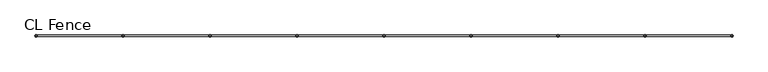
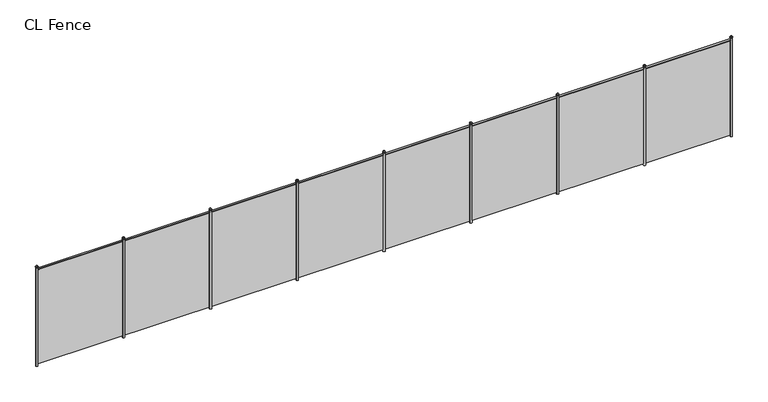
"""IFC4 building model written with IfcOpenShell, lengths in millimetres: geographic element geometry, Alambrado : CL Fence."""

from ifc_helpers import new_model, si_unit, point, frame, frame_2d, origin, place, context, project, spatial, polyline, circle_curve, ellipse_curve, trimmed, segment, composite_curve, outline, extrude, source, transform, mapped, element, save
from ifc_brep_helpers import plane_surface, cylinder_surface, revolved_surface, advanced_brep


def cl_fence_86baf1ea(model_context):
    return source(origin(), model_context, "Body", "SolidModel", [
        advanced_brep(
        [(17648.026156, 0.0, 3055.5625), (17709.0125527, 0.0, 3055.5625), (17710.2693543, 0.0, 3055.5625), (17646.7693543, 0.0, 3055.5625), (17678.5193543, 0.0, 3086.0556984), (17646.7693543, 0.0, 3033.3375), (17710.2693543, 0.0, 3033.3375), (17678.5193543, 0.0, 3033.3375), (17646.7693543, 0.0, 3050.8), (17710.2693543, 0.0, 3050.8)],
        [
            (0, 1, circle_curve(frame((17678.5193543, 0.0, 3055.5625), z_axis=(0.0, 0.0, -1.0), x_axis=(1.0, 0.0, 0.0)), 30.4931984)),
            (1, 2),
            (2, 3, circle_curve(frame((17678.5193543, 0.0, 3055.5625), z_axis=(0.0, 0.0, 1.0), x_axis=(1.0, 0.0, 0.0)), 31.75)),
            (3, 0),
            (1, 0, circle_curve(frame((17678.5193543, 0.0, 3055.5625), z_axis=(0.0, 0.0, -1.0), x_axis=(1.0, 0.0, 0.0)), 30.4931984)),
            (3, 2, circle_curve(frame((17678.5193543, 0.0, 3055.5625), z_axis=(0.0, 0.0, 1.0), x_axis=(1.0, 0.0, 0.0)), 31.75)),
            (4, 1, circle_curve(frame((17671.6636871, 0.0, 3048.7068328), z_axis=(0.0, 1.0, 0.0), x_axis=(1.0, 0.0, 0.0)), 37.9728578)),
            (0, 4, circle_curve(frame((17685.3750215, 0.0, 3048.7068328), z_axis=(0.0, 1.0, 0.0), x_axis=(-1.0, 0.0, 0.0)), 37.9728578)),
            (5, 6, circle_curve(frame((17678.5193543, 0.0, 3033.3375), z_axis=(0.0, 0.0, -1.0), x_axis=(1.0, 0.0, 0.0)), 31.75)),
            (6, 7),
            (7, 5),
            (6, 5, circle_curve(frame((17678.5193543, 0.0, 3033.3375), z_axis=(0.0, 0.0, -1.0), x_axis=(1.0, 0.0, 0.0)), 31.75)),
            (8, 9, circle_curve(frame((17678.5193543, 0.0, 3050.8), z_axis=(0.0, 0.0, -1.0), x_axis=(1.0, 0.0, 0.0)), 31.75)),
            (9, 6),
            (5, 8),
            (9, 8, circle_curve(frame((17678.5193543, 0.0, 3050.8), z_axis=(0.0, 0.0, -1.0), x_axis=(1.0, 0.0, 0.0)), 31.75)),
            (2, 9, circle_curve(frame((17710.2693543, 0.0, 3053.18125), z_axis=(0.0, 1.0, 0.0), x_axis=(1.0, 0.0, 0.0)), 2.38125)),
            (8, 3, circle_curve(frame((17646.7693543, 0.0, 3053.18125), z_axis=(0.0, 1.0, 0.0), x_axis=(-1.0, 0.0, 0.0)), 2.38125)),
        ],
        [
            plane_surface(frame((17678.5193543, 0.0, 3055.5625), z_axis=(0.0, 0.0, 1.0), x_axis=(1.0, 0.0, 0.0))),
            revolved_surface(trimmed(ellipse_curve(frame((17671.6636871, 0.0, 3048.7068328), z_axis=(0.0, -1.0, 0.0), x_axis=(1.0, 0.0, 0.0)), 37.9728578, 37.9728578), [point((17709.0125527, 0.0, 3055.5625))], [point((17678.5193543, 0.0, 3086.0556984))], True, "CARTESIAN"), (17678.5193543, 0.0, 3112.7125), (0.0, 0.0, 1.0)),
            plane_surface(frame((17678.5193543, 0.0, 3033.3375), z_axis=(0.0, 0.0, -1.0), x_axis=(1.0, 0.0, 0.0))),
            cylinder_surface(frame((17678.5193543, 0.0, 3112.7125), z_axis=(0.0, 0.0, 1.0), x_axis=(1.0, 0.0, 0.0)), 31.75),
            revolved_surface(trimmed(ellipse_curve(frame((17710.2693543, 0.0, 3053.18125), z_axis=(0.0, -1.0, 0.0), x_axis=(1.0, 0.0, 0.0)), 2.38125, 2.38125), [point((17710.2693543, 0.0, 3050.8))], [point((17710.2693543, 0.0, 3055.5625))], True, "CARTESIAN"), (17678.5193543, 0.0, 3112.7125), (0.0, 0.0, 1.0)),
        ],
        [
            (0, [[1, 2, 3, 4]]),
            (0, [[5, -4, 6, -2]]),
            (1, [[7, -1, 8]]),
            (1, [[-8, -5, -7]]),
            (2, [[9, 10, 11]]),
            (2, [[12, -11, -10]]),
            (3, [[13, 14, -9, 15]]),
            (3, [[16, -15, -12, -14]]),
            (4, [[-3, 17, -13, 18]]),
            (4, [[-6, -18, -16, -17]]),
        ],
    ),
        advanced_brep(
        [(17678.5193543, 0.0, 3050.8), (17708.6818543, 0.0, 3050.8), (17648.3568543, 0.0, 3050.8), (17648.3568543, 0.0, 0.0), (17708.6818543, 0.0, 0.0), (17678.5193543, 0.0, 0.0)],
        [
            (0, 1),
            (1, 2, circle_curve(frame((17678.5193543, 0.0, 3050.8), z_axis=(0.0, 0.0, 1.0), x_axis=(1.0, 0.0, 0.0)), 30.1625)),
            (2, 0),
            (2, 1, circle_curve(frame((17678.5193543, 0.0, 3050.8), z_axis=(0.0, 0.0, 1.0), x_axis=(1.0, 0.0, 0.0)), 30.1625)),
            (3, 4, circle_curve(frame((17678.5193543, 0.0, 0.0), z_axis=(0.0, 0.0, -1.0), x_axis=(1.0, 0.0, 0.0)), 30.1625)),
            (4, 5),
            (5, 3),
            (4, 3, circle_curve(frame((17678.5193543, 0.0, 0.0), z_axis=(0.0, 0.0, -1.0), x_axis=(1.0, 0.0, 0.0)), 30.1625)),
            (1, 4),
            (3, 2),
        ],
        [
            plane_surface(frame((17678.5193543, 0.0, 3050.8), z_axis=(0.0, 0.0, 1.0), x_axis=(1.0, 0.0, 0.0))),
            plane_surface(frame((17678.5193543, 0.0, 0.0), z_axis=(0.0, 0.0, -1.0), x_axis=(1.0, 0.0, 0.0))),
            cylinder_surface(frame((17678.5193543, 0.0, 3101.6), z_axis=(0.0, 0.0, 1.0), x_axis=(1.0, 0.0, 0.0)), 30.1625),
        ],
        [
            (0, [[1, 2, 3]]),
            (0, [[-3, 4, -1]]),
            (1, [[5, 6, 7]]),
            (1, [[8, -7, -6]]),
            (2, [[-2, 9, -5, 10]]),
            (2, [[-4, -10, -8, -9]]),
        ],
    ),
        advanced_brep(
        [(15122.5233911, 0.0, 3055.5625), (15183.5097878, 0.0, 3055.5625), (15184.7665894, 0.0, 3055.5625), (15121.2665894, 0.0, 3055.5625), (15153.0165894, 0.0, 3086.0556984), (15121.2665894, 0.0, 3033.3375), (15184.7665894, 0.0, 3033.3375), (15153.0165894, 0.0, 3033.3375), (15121.2665894, 0.0, 3050.8), (15184.7665894, 0.0, 3050.8)],
        [
            (0, 1, circle_curve(frame((15153.0165894, 0.0, 3055.5625), z_axis=(0.0, 0.0, -1.0), x_axis=(1.0, 0.0, 0.0)), 30.4931984)),
            (1, 2),
            (2, 3, circle_curve(frame((15153.0165894, 0.0, 3055.5625), z_axis=(0.0, 0.0, 1.0), x_axis=(1.0, 0.0, 0.0)), 31.75)),
            (3, 0),
            (1, 0, circle_curve(frame((15153.0165894, 0.0, 3055.5625), z_axis=(0.0, 0.0, -1.0), x_axis=(1.0, 0.0, 0.0)), 30.4931984)),
            (3, 2, circle_curve(frame((15153.0165894, 0.0, 3055.5625), z_axis=(0.0, 0.0, 1.0), x_axis=(1.0, 0.0, 0.0)), 31.75)),
            (4, 1, circle_curve(frame((15146.1609222, 0.0, 3048.7068328), z_axis=(0.0, 1.0, 0.0), x_axis=(1.0, 0.0, 0.0)), 37.9728578)),
            (0, 4, circle_curve(frame((15159.8722566, 0.0, 3048.7068328), z_axis=(0.0, 1.0, 0.0), x_axis=(-1.0, 0.0, 0.0)), 37.9728578)),
            (5, 6, circle_curve(frame((15153.0165894, 0.0, 3033.3375), z_axis=(0.0, 0.0, -1.0), x_axis=(1.0, 0.0, 0.0)), 31.75)),
            (6, 7),
            (7, 5),
            (6, 5, circle_curve(frame((15153.0165894, 0.0, 3033.3375), z_axis=(0.0, 0.0, -1.0), x_axis=(1.0, 0.0, 0.0)), 31.75)),
            (8, 9, circle_curve(frame((15153.0165894, 0.0, 3050.8), z_axis=(0.0, 0.0, -1.0), x_axis=(1.0, 0.0, 0.0)), 31.75)),
            (9, 6),
            (5, 8),
            (9, 8, circle_curve(frame((15153.0165894, 0.0, 3050.8), z_axis=(0.0, 0.0, -1.0), x_axis=(1.0, 0.0, 0.0)), 31.75)),
            (2, 9, circle_curve(frame((15184.7665894, 0.0, 3053.18125), z_axis=(0.0, 1.0, 0.0), x_axis=(1.0, 0.0, 0.0)), 2.38125)),
            (8, 3, circle_curve(frame((15121.2665894, 0.0, 3053.18125), z_axis=(0.0, 1.0, 0.0), x_axis=(-1.0, 0.0, 0.0)), 2.38125)),
        ],
        [
            plane_surface(frame((15153.0165894, 0.0, 3055.5625), z_axis=(0.0, 0.0, 1.0), x_axis=(1.0, 0.0, 0.0))),
            revolved_surface(trimmed(ellipse_curve(frame((15146.1609222, 0.0, 3048.7068328), z_axis=(0.0, -1.0, 0.0), x_axis=(1.0, 0.0, 0.0)), 37.9728578, 37.9728578), [point((15183.5097878, 0.0, 3055.5625))], [point((15153.0165894, 0.0, 3086.0556984))], True, "CARTESIAN"), (15153.0165894, 0.0, 3112.7125), (0.0, 0.0, 1.0)),
            plane_surface(frame((15153.0165894, 0.0, 3033.3375), z_axis=(0.0, 0.0, -1.0), x_axis=(1.0, 0.0, 0.0))),
            cylinder_surface(frame((15153.0165894, 0.0, 3112.7125), z_axis=(0.0, 0.0, 1.0), x_axis=(1.0, 0.0, 0.0)), 31.75),
            revolved_surface(trimmed(ellipse_curve(frame((15184.7665894, 0.0, 3053.18125), z_axis=(0.0, -1.0, 0.0), x_axis=(1.0, 0.0, 0.0)), 2.38125, 2.38125), [point((15184.7665894, 0.0, 3050.8))], [point((15184.7665894, 0.0, 3055.5625))], True, "CARTESIAN"), (15153.0165894, 0.0, 3112.7125), (0.0, 0.0, 1.0)),
        ],
        [
            (0, [[1, 2, 3, 4]]),
            (0, [[5, -4, 6, -2]]),
            (1, [[7, -1, 8]]),
            (1, [[-8, -5, -7]]),
            (2, [[9, 10, 11]]),
            (2, [[12, -11, -10]]),
            (3, [[13, 14, -9, 15]]),
            (3, [[16, -15, -12, -14]]),
            (4, [[-3, 17, -13, 18]]),
            (4, [[-6, -18, -16, -17]]),
        ],
    ),
        advanced_brep(
        [(15153.0165894, 0.0, 3050.8), (15183.1790894, 0.0, 3050.8), (15122.8540894, 0.0, 3050.8), (15122.8540894, 0.0, 0.0), (15183.1790894, 0.0, 0.0), (15153.0165894, 0.0, 0.0)],
        [
            (0, 1),
            (1, 2, circle_curve(frame((15153.0165894, 0.0, 3050.8), z_axis=(0.0, 0.0, 1.0), x_axis=(1.0, 0.0, 0.0)), 30.1625)),
            (2, 0),
            (2, 1, circle_curve(frame((15153.0165894, 0.0, 3050.8), z_axis=(0.0, 0.0, 1.0), x_axis=(1.0, 0.0, 0.0)), 30.1625)),
            (3, 4, circle_curve(frame((15153.0165894, 0.0, 0.0), z_axis=(0.0, 0.0, -1.0), x_axis=(1.0, 0.0, 0.0)), 30.1625)),
            (4, 5),
            (5, 3),
            (4, 3, circle_curve(frame((15153.0165894, 0.0, 0.0), z_axis=(0.0, 0.0, -1.0), x_axis=(1.0, 0.0, 0.0)), 30.1625)),
            (1, 4),
            (3, 2),
        ],
        [
            plane_surface(frame((15153.0165894, 0.0, 3050.8), z_axis=(0.0, 0.0, 1.0), x_axis=(1.0, 0.0, 0.0))),
            plane_surface(frame((15153.0165894, 0.0, 0.0), z_axis=(0.0, 0.0, -1.0), x_axis=(1.0, 0.0, 0.0))),
            cylinder_surface(frame((15153.0165894, 0.0, 3101.6), z_axis=(0.0, 0.0, 1.0), x_axis=(1.0, 0.0, 0.0)), 30.1625),
        ],
        [
            (0, [[1, 2, 3]]),
            (0, [[-3, 4, -1]]),
            (1, [[5, 6, 7]]),
            (1, [[8, -7, -6]]),
            (2, [[-2, 9, -5, 10]]),
            (2, [[-4, -10, -8, -9]]),
        ],
    ),
        advanced_brep(
        [(12597.0206262, 0.0, 3055.5625), (12658.0070229, 0.0, 3055.5625), (12659.2638245, 0.0, 3055.5625), (12595.7638245, 0.0, 3055.5625), (12627.5138245, 0.0, 3086.0556984), (12595.7638245, 0.0, 3033.3375), (12659.2638245, 0.0, 3033.3375), (12627.5138245, 0.0, 3033.3375), (12595.7638245, 0.0, 3050.8), (12659.2638245, 0.0, 3050.8)],
        [
            (0, 1, circle_curve(frame((12627.5138245, 0.0, 3055.5625), z_axis=(0.0, 0.0, -1.0), x_axis=(1.0, 0.0, 0.0)), 30.4931984)),
            (1, 2),
            (2, 3, circle_curve(frame((12627.5138245, 0.0, 3055.5625), z_axis=(0.0, 0.0, 1.0), x_axis=(1.0, 0.0, 0.0)), 31.75)),
            (3, 0),
            (1, 0, circle_curve(frame((12627.5138245, 0.0, 3055.5625), z_axis=(0.0, 0.0, -1.0), x_axis=(1.0, 0.0, 0.0)), 30.4931984)),
            (3, 2, circle_curve(frame((12627.5138245, 0.0, 3055.5625), z_axis=(0.0, 0.0, 1.0), x_axis=(1.0, 0.0, 0.0)), 31.75)),
            (4, 1, circle_curve(frame((12620.6581573, 0.0, 3048.7068328), z_axis=(0.0, 1.0, 0.0), x_axis=(1.0, 0.0, 0.0)), 37.9728578)),
            (0, 4, circle_curve(frame((12634.3694917, 0.0, 3048.7068328), z_axis=(0.0, 1.0, 0.0), x_axis=(-1.0, 0.0, 0.0)), 37.9728578)),
            (5, 6, circle_curve(frame((12627.5138245, 0.0, 3033.3375), z_axis=(0.0, 0.0, -1.0), x_axis=(1.0, 0.0, 0.0)), 31.75)),
            (6, 7),
            (7, 5),
            (6, 5, circle_curve(frame((12627.5138245, 0.0, 3033.3375), z_axis=(0.0, 0.0, -1.0), x_axis=(1.0, 0.0, 0.0)), 31.75)),
            (8, 9, circle_curve(frame((12627.5138245, 0.0, 3050.8), z_axis=(0.0, 0.0, -1.0), x_axis=(1.0, 0.0, 0.0)), 31.75)),
            (9, 6),
            (5, 8),
            (9, 8, circle_curve(frame((12627.5138245, 0.0, 3050.8), z_axis=(0.0, 0.0, -1.0), x_axis=(1.0, 0.0, 0.0)), 31.75)),
            (2, 9, circle_curve(frame((12659.2638245, 0.0, 3053.18125), z_axis=(0.0, 1.0, 0.0), x_axis=(1.0, 0.0, 0.0)), 2.38125)),
            (8, 3, circle_curve(frame((12595.7638245, 0.0, 3053.18125), z_axis=(0.0, 1.0, 0.0), x_axis=(-1.0, 0.0, 0.0)), 2.38125)),
        ],
        [
            plane_surface(frame((12627.5138245, 0.0, 3055.5625), z_axis=(0.0, 0.0, 1.0), x_axis=(1.0, 0.0, 0.0))),
            revolved_surface(trimmed(ellipse_curve(frame((12620.6581573, 0.0, 3048.7068328), z_axis=(0.0, -1.0, 0.0), x_axis=(1.0, 0.0, 0.0)), 37.9728578, 37.9728578), [point((12658.0070229, 0.0, 3055.5625))], [point((12627.5138245, 0.0, 3086.0556984))], True, "CARTESIAN"), (12627.5138245, 0.0, 3112.7125), (0.0, 0.0, 1.0)),
            plane_surface(frame((12627.5138245, 0.0, 3033.3375), z_axis=(0.0, 0.0, -1.0), x_axis=(1.0, 0.0, 0.0))),
            cylinder_surface(frame((12627.5138245, 0.0, 3112.7125), z_axis=(0.0, 0.0, 1.0), x_axis=(1.0, 0.0, 0.0)), 31.75),
            revolved_surface(trimmed(ellipse_curve(frame((12659.2638245, 0.0, 3053.18125), z_axis=(0.0, -1.0, 0.0), x_axis=(1.0, 0.0, 0.0)), 2.38125, 2.38125), [point((12659.2638245, 0.0, 3050.8))], [point((12659.2638245, 0.0, 3055.5625))], True, "CARTESIAN"), (12627.5138245, 0.0, 3112.7125), (0.0, 0.0, 1.0)),
        ],
        [
            (0, [[1, 2, 3, 4]]),
            (0, [[5, -4, 6, -2]]),
            (1, [[7, -1, 8]]),
            (1, [[-8, -5, -7]]),
            (2, [[9, 10, 11]]),
            (2, [[12, -11, -10]]),
            (3, [[13, 14, -9, 15]]),
            (3, [[16, -15, -12, -14]]),
            (4, [[-3, 17, -13, 18]]),
            (4, [[-6, -18, -16, -17]]),
        ],
    ),
        advanced_brep(
        [(12627.5138245, 0.0, 3050.8), (12657.6763245, 0.0, 3050.8), (12597.3513245, 0.0, 3050.8), (12597.3513245, 0.0, 0.0), (12657.6763245, 0.0, 0.0), (12627.5138245, 0.0, 0.0)],
        [
            (0, 1),
            (1, 2, circle_curve(frame((12627.5138245, 0.0, 3050.8), z_axis=(0.0, 0.0, 1.0), x_axis=(1.0, 0.0, 0.0)), 30.1625)),
            (2, 0),
            (2, 1, circle_curve(frame((12627.5138245, 0.0, 3050.8), z_axis=(0.0, 0.0, 1.0), x_axis=(1.0, 0.0, 0.0)), 30.1625)),
            (3, 4, circle_curve(frame((12627.5138245, 0.0, 0.0), z_axis=(0.0, 0.0, -1.0), x_axis=(1.0, 0.0, 0.0)), 30.1625)),
            (4, 5),
            (5, 3),
            (4, 3, circle_curve(frame((12627.5138245, 0.0, 0.0), z_axis=(0.0, 0.0, -1.0), x_axis=(1.0, 0.0, 0.0)), 30.1625)),
            (1, 4),
            (3, 2),
        ],
        [
            plane_surface(frame((12627.5138245, 0.0, 3050.8), z_axis=(0.0, 0.0, 1.0), x_axis=(1.0, 0.0, 0.0))),
            plane_surface(frame((12627.5138245, 0.0, 0.0), z_axis=(0.0, 0.0, -1.0), x_axis=(1.0, 0.0, 0.0))),
            cylinder_surface(frame((12627.5138245, 0.0, 3101.6), z_axis=(0.0, 0.0, 1.0), x_axis=(1.0, 0.0, 0.0)), 30.1625),
        ],
        [
            (0, [[1, 2, 3]]),
            (0, [[-3, 4, -1]]),
            (1, [[5, 6, 7]]),
            (1, [[8, -7, -6]]),
            (2, [[-2, 9, -5, 10]]),
            (2, [[-4, -10, -8, -9]]),
        ],
    ),
        advanced_brep(
        [(10071.5178613, 0.0, 3055.5625), (10132.504258, 0.0, 3055.5625), (10133.7610596, 0.0, 3055.5625), (10070.2610596, 0.0, 3055.5625), (10102.0110596, 0.0, 3086.0556984), (10070.2610596, 0.0, 3033.3375), (10133.7610596, 0.0, 3033.3375), (10102.0110596, 0.0, 3033.3375), (10070.2610596, 0.0, 3050.8), (10133.7610596, 0.0, 3050.8)],
        [
            (0, 1, circle_curve(frame((10102.0110596, 0.0, 3055.5625), z_axis=(0.0, 0.0, -1.0), x_axis=(1.0, 0.0, 0.0)), 30.4931984)),
            (1, 2),
            (2, 3, circle_curve(frame((10102.0110596, 0.0, 3055.5625), z_axis=(0.0, 0.0, 1.0), x_axis=(1.0, 0.0, 0.0)), 31.75)),
            (3, 0),
            (1, 0, circle_curve(frame((10102.0110596, 0.0, 3055.5625), z_axis=(0.0, 0.0, -1.0), x_axis=(1.0, 0.0, 0.0)), 30.4931984)),
            (3, 2, circle_curve(frame((10102.0110596, 0.0, 3055.5625), z_axis=(0.0, 0.0, 1.0), x_axis=(1.0, 0.0, 0.0)), 31.75)),
            (4, 1, circle_curve(frame((10095.1553924, 0.0, 3048.7068328), z_axis=(0.0, 1.0, 0.0), x_axis=(1.0, 0.0, 0.0)), 37.9728578)),
            (0, 4, circle_curve(frame((10108.8667268, 0.0, 3048.7068328), z_axis=(0.0, 1.0, 0.0), x_axis=(-1.0, 0.0, 0.0)), 37.9728578)),
            (5, 6, circle_curve(frame((10102.0110596, 0.0, 3033.3375), z_axis=(0.0, 0.0, -1.0), x_axis=(1.0, 0.0, 0.0)), 31.75)),
            (6, 7),
            (7, 5),
            (6, 5, circle_curve(frame((10102.0110596, 0.0, 3033.3375), z_axis=(0.0, 0.0, -1.0), x_axis=(1.0, 0.0, 0.0)), 31.75)),
            (8, 9, circle_curve(frame((10102.0110596, 0.0, 3050.8), z_axis=(0.0, 0.0, -1.0), x_axis=(1.0, 0.0, 0.0)), 31.75)),
            (9, 6),
            (5, 8),
            (9, 8, circle_curve(frame((10102.0110596, 0.0, 3050.8), z_axis=(0.0, 0.0, -1.0), x_axis=(1.0, 0.0, 0.0)), 31.75)),
            (2, 9, circle_curve(frame((10133.7610596, 0.0, 3053.18125), z_axis=(0.0, 1.0, 0.0), x_axis=(1.0, 0.0, 0.0)), 2.38125)),
            (8, 3, circle_curve(frame((10070.2610596, 0.0, 3053.18125), z_axis=(0.0, 1.0, 0.0), x_axis=(-1.0, 0.0, 0.0)), 2.38125)),
        ],
        [
            plane_surface(frame((10102.0110596, 0.0, 3055.5625), z_axis=(0.0, 0.0, 1.0), x_axis=(1.0, 0.0, 0.0))),
            revolved_surface(trimmed(ellipse_curve(frame((10095.1553924, 0.0, 3048.7068328), z_axis=(0.0, -1.0, 0.0), x_axis=(1.0, 0.0, 0.0)), 37.9728578, 37.9728578), [point((10132.504258, 0.0, 3055.5625))], [point((10102.0110596, 0.0, 3086.0556984))], True, "CARTESIAN"), (10102.0110596, 0.0, 3112.7125), (0.0, 0.0, 1.0)),
            plane_surface(frame((10102.0110596, 0.0, 3033.3375), z_axis=(0.0, 0.0, -1.0), x_axis=(1.0, 0.0, 0.0))),
            cylinder_surface(frame((10102.0110596, 0.0, 3112.7125), z_axis=(0.0, 0.0, 1.0), x_axis=(1.0, 0.0, 0.0)), 31.75),
            revolved_surface(trimmed(ellipse_curve(frame((10133.7610596, 0.0, 3053.18125), z_axis=(0.0, -1.0, 0.0), x_axis=(1.0, 0.0, 0.0)), 2.38125, 2.38125), [point((10133.7610596, 0.0, 3050.8))], [point((10133.7610596, 0.0, 3055.5625))], True, "CARTESIAN"), (10102.0110596, 0.0, 3112.7125), (0.0, 0.0, 1.0)),
        ],
        [
            (0, [[1, 2, 3, 4]]),
            (0, [[5, -4, 6, -2]]),
            (1, [[7, -1, 8]]),
            (1, [[-8, -5, -7]]),
            (2, [[9, 10, 11]]),
            (2, [[12, -11, -10]]),
            (3, [[13, 14, -9, 15]]),
            (3, [[16, -15, -12, -14]]),
            (4, [[-3, 17, -13, 18]]),
            (4, [[-6, -18, -16, -17]]),
        ],
    ),
        advanced_brep(
        [(10102.0110596, 0.0, 3050.8), (10132.1735596, 0.0, 3050.8), (10071.8485596, 0.0, 3050.8), (10071.8485596, 0.0, 0.0), (10132.1735596, 0.0, 0.0), (10102.0110596, 0.0, 0.0)],
        [
            (0, 1),
            (1, 2, circle_curve(frame((10102.0110596, 0.0, 3050.8), z_axis=(0.0, 0.0, 1.0), x_axis=(1.0, 0.0, 0.0)), 30.1625)),
            (2, 0),
            (2, 1, circle_curve(frame((10102.0110596, 0.0, 3050.8), z_axis=(0.0, 0.0, 1.0), x_axis=(1.0, 0.0, 0.0)), 30.1625)),
            (3, 4, circle_curve(frame((10102.0110596, 0.0, 0.0), z_axis=(0.0, 0.0, -1.0), x_axis=(1.0, 0.0, 0.0)), 30.1625)),
            (4, 5),
            (5, 3),
            (4, 3, circle_curve(frame((10102.0110596, 0.0, 0.0), z_axis=(0.0, 0.0, -1.0), x_axis=(1.0, 0.0, 0.0)), 30.1625)),
            (1, 4),
            (3, 2),
        ],
        [
            plane_surface(frame((10102.0110596, 0.0, 3050.8), z_axis=(0.0, 0.0, 1.0), x_axis=(1.0, 0.0, 0.0))),
            plane_surface(frame((10102.0110596, 0.0, 0.0), z_axis=(0.0, 0.0, -1.0), x_axis=(1.0, 0.0, 0.0))),
            cylinder_surface(frame((10102.0110596, 0.0, 3101.6), z_axis=(0.0, 0.0, 1.0), x_axis=(1.0, 0.0, 0.0)), 30.1625),
        ],
        [
            (0, [[1, 2, 3]]),
            (0, [[-3, 4, -1]]),
            (1, [[5, 6, 7]]),
            (1, [[8, -7, -6]]),
            (2, [[-2, 9, -5, 10]]),
            (2, [[-4, -10, -8, -9]]),
        ],
    ),
        advanced_brep(
        [(7546.0150964, 0.0, 3055.5625), (7607.0014931, 0.0, 3055.5625), (7608.2582947, 0.0, 3055.5625), (7544.7582947, 0.0, 3055.5625), (7576.5082947, 0.0, 3086.0556984), (7544.7582947, 0.0, 3033.3375), (7608.2582947, 0.0, 3033.3375), (7576.5082947, 0.0, 3033.3375), (7544.7582947, 0.0, 3050.8), (7608.2582947, 0.0, 3050.8)],
        [
            (0, 1, circle_curve(frame((7576.5082947, 0.0, 3055.5625), z_axis=(0.0, 0.0, -1.0), x_axis=(1.0, 0.0, 0.0)), 30.4931984)),
            (1, 2),
            (2, 3, circle_curve(frame((7576.5082947, 0.0, 3055.5625), z_axis=(0.0, 0.0, 1.0), x_axis=(1.0, 0.0, 0.0)), 31.75)),
            (3, 0),
            (1, 0, circle_curve(frame((7576.5082947, 0.0, 3055.5625), z_axis=(0.0, 0.0, -1.0), x_axis=(1.0, 0.0, 0.0)), 30.4931984)),
            (3, 2, circle_curve(frame((7576.5082947, 0.0, 3055.5625), z_axis=(0.0, 0.0, 1.0), x_axis=(1.0, 0.0, 0.0)), 31.75)),
            (4, 1, circle_curve(frame((7569.6526275, 0.0, 3048.7068328), z_axis=(0.0, 1.0, 0.0), x_axis=(1.0, 0.0, 0.0)), 37.9728578)),
            (0, 4, circle_curve(frame((7583.3639619, 0.0, 3048.7068328), z_axis=(0.0, 1.0, 0.0), x_axis=(-1.0, 0.0, 0.0)), 37.9728578)),
            (5, 6, circle_curve(frame((7576.5082947, 0.0, 3033.3375), z_axis=(0.0, 0.0, -1.0), x_axis=(1.0, 0.0, 0.0)), 31.75)),
            (6, 7),
            (7, 5),
            (6, 5, circle_curve(frame((7576.5082947, 0.0, 3033.3375), z_axis=(0.0, 0.0, -1.0), x_axis=(1.0, 0.0, 0.0)), 31.75)),
            (8, 9, circle_curve(frame((7576.5082947, 0.0, 3050.8), z_axis=(0.0, 0.0, -1.0), x_axis=(1.0, 0.0, 0.0)), 31.75)),
            (9, 6),
            (5, 8),
            (9, 8, circle_curve(frame((7576.5082947, 0.0, 3050.8), z_axis=(0.0, 0.0, -1.0), x_axis=(1.0, 0.0, 0.0)), 31.75)),
            (2, 9, circle_curve(frame((7608.2582947, 0.0, 3053.18125), z_axis=(0.0, 1.0, 0.0), x_axis=(1.0, 0.0, 0.0)), 2.38125)),
            (8, 3, circle_curve(frame((7544.7582947, 0.0, 3053.18125), z_axis=(0.0, 1.0, 0.0), x_axis=(-1.0, 0.0, 0.0)), 2.38125)),
        ],
        [
            plane_surface(frame((7576.5082947, 0.0, 3055.5625), z_axis=(0.0, 0.0, 1.0), x_axis=(1.0, 0.0, 0.0))),
            revolved_surface(trimmed(ellipse_curve(frame((7569.6526275, 0.0, 3048.7068328), z_axis=(0.0, -1.0, 0.0), x_axis=(1.0, 0.0, 0.0)), 37.9728578, 37.9728578), [point((7607.0014931, 0.0, 3055.5625))], [point((7576.5082947, 0.0, 3086.0556984))], True, "CARTESIAN"), (7576.5082947, 0.0, 3112.7125), (0.0, 0.0, 1.0)),
            plane_surface(frame((7576.5082947, 0.0, 3033.3375), z_axis=(0.0, 0.0, -1.0), x_axis=(1.0, 0.0, 0.0))),
            cylinder_surface(frame((7576.5082947, 0.0, 3112.7125), z_axis=(0.0, 0.0, 1.0), x_axis=(1.0, 0.0, 0.0)), 31.75),
            revolved_surface(trimmed(ellipse_curve(frame((7608.2582947, 0.0, 3053.18125), z_axis=(0.0, -1.0, 0.0), x_axis=(1.0, 0.0, 0.0)), 2.38125, 2.38125), [point((7608.2582947, 0.0, 3050.8))], [point((7608.2582947, 0.0, 3055.5625))], True, "CARTESIAN"), (7576.5082947, 0.0, 3112.7125), (0.0, 0.0, 1.0)),
        ],
        [
            (0, [[1, 2, 3, 4]]),
            (0, [[5, -4, 6, -2]]),
            (1, [[7, -1, 8]]),
            (1, [[-8, -5, -7]]),
            (2, [[9, 10, 11]]),
            (2, [[12, -11, -10]]),
            (3, [[13, 14, -9, 15]]),
            (3, [[16, -15, -12, -14]]),
            (4, [[-3, 17, -13, 18]]),
            (4, [[-6, -18, -16, -17]]),
        ],
    ),
        advanced_brep(
        [(7576.5082947, 0.0, 3050.8), (7606.6707947, 0.0, 3050.8), (7546.3457947, 0.0, 3050.8), (7546.3457947, 0.0, 0.0), (7606.6707947, 0.0, 0.0), (7576.5082947, 0.0, 0.0)],
        [
            (0, 1),
            (1, 2, circle_curve(frame((7576.5082947, 0.0, 3050.8), z_axis=(0.0, 0.0, 1.0), x_axis=(1.0, 0.0, 0.0)), 30.1625)),
            (2, 0),
            (2, 1, circle_curve(frame((7576.5082947, 0.0, 3050.8), z_axis=(0.0, 0.0, 1.0), x_axis=(1.0, 0.0, 0.0)), 30.1625)),
            (3, 4, circle_curve(frame((7576.5082947, 0.0, 0.0), z_axis=(0.0, 0.0, -1.0), x_axis=(1.0, 0.0, 0.0)), 30.1625)),
            (4, 5),
            (5, 3),
            (4, 3, circle_curve(frame((7576.5082947, 0.0, 0.0), z_axis=(0.0, 0.0, -1.0), x_axis=(1.0, 0.0, 0.0)), 30.1625)),
            (1, 4),
            (3, 2),
        ],
        [
            plane_surface(frame((7576.5082947, 0.0, 3050.8), z_axis=(0.0, 0.0, 1.0), x_axis=(1.0, 0.0, 0.0))),
            plane_surface(frame((7576.5082947, 0.0, 0.0), z_axis=(0.0, 0.0, -1.0), x_axis=(1.0, 0.0, 0.0))),
            cylinder_surface(frame((7576.5082947, 0.0, 3101.6), z_axis=(0.0, 0.0, 1.0), x_axis=(1.0, 0.0, 0.0)), 30.1625),
        ],
        [
            (0, [[1, 2, 3]]),
            (0, [[-3, 4, -1]]),
            (1, [[5, 6, 7]]),
            (1, [[8, -7, -6]]),
            (2, [[-2, 9, -5, 10]]),
            (2, [[-4, -10, -8, -9]]),
        ],
    ),
        advanced_brep(
        [(5020.5123315, 0.0, 3055.5625), (5081.4987282, 0.0, 3055.5625), (5082.7555298, 0.0, 3055.5625), (5019.2555298, 0.0, 3055.5625), (5051.0055298, 0.0, 3086.0556984), (5019.2555298, 0.0, 3033.3375), (5082.7555298, 0.0, 3033.3375), (5051.0055298, 0.0, 3033.3375), (5019.2555298, 0.0, 3050.8), (5082.7555298, 0.0, 3050.8)],
        [
            (0, 1, circle_curve(frame((5051.0055298, 0.0, 3055.5625), z_axis=(0.0, 0.0, -1.0), x_axis=(1.0, 0.0, 0.0)), 30.4931984)),
            (1, 2),
            (2, 3, circle_curve(frame((5051.0055298, 0.0, 3055.5625), z_axis=(0.0, 0.0, 1.0), x_axis=(1.0, 0.0, 0.0)), 31.75)),
            (3, 0),
            (1, 0, circle_curve(frame((5051.0055298, 0.0, 3055.5625), z_axis=(0.0, 0.0, -1.0), x_axis=(1.0, 0.0, 0.0)), 30.4931984)),
            (3, 2, circle_curve(frame((5051.0055298, 0.0, 3055.5625), z_axis=(0.0, 0.0, 1.0), x_axis=(1.0, 0.0, 0.0)), 31.75)),
            (4, 1, circle_curve(frame((5044.1498626, 0.0, 3048.7068328), z_axis=(0.0, 1.0, 0.0), x_axis=(1.0, 0.0, 0.0)), 37.9728578)),
            (0, 4, circle_curve(frame((5057.861197, 0.0, 3048.7068328), z_axis=(0.0, 1.0, 0.0), x_axis=(-1.0, 0.0, 0.0)), 37.9728578)),
            (5, 6, circle_curve(frame((5051.0055298, 0.0, 3033.3375), z_axis=(0.0, 0.0, -1.0), x_axis=(1.0, 0.0, 0.0)), 31.75)),
            (6, 7),
            (7, 5),
            (6, 5, circle_curve(frame((5051.0055298, 0.0, 3033.3375), z_axis=(0.0, 0.0, -1.0), x_axis=(1.0, 0.0, 0.0)), 31.75)),
            (8, 9, circle_curve(frame((5051.0055298, 0.0, 3050.8), z_axis=(0.0, 0.0, -1.0), x_axis=(1.0, 0.0, 0.0)), 31.75)),
            (9, 6),
            (5, 8),
            (9, 8, circle_curve(frame((5051.0055298, 0.0, 3050.8), z_axis=(0.0, 0.0, -1.0), x_axis=(1.0, 0.0, 0.0)), 31.75)),
            (2, 9, circle_curve(frame((5082.7555298, 0.0, 3053.18125), z_axis=(0.0, 1.0, 0.0), x_axis=(1.0, 0.0, 0.0)), 2.38125)),
            (8, 3, circle_curve(frame((5019.2555298, 0.0, 3053.18125), z_axis=(0.0, 1.0, 0.0), x_axis=(-1.0, 0.0, 0.0)), 2.38125)),
        ],
        [
            plane_surface(frame((5051.0055298, 0.0, 3055.5625), z_axis=(0.0, 0.0, 1.0), x_axis=(1.0, 0.0, 0.0))),
            revolved_surface(trimmed(ellipse_curve(frame((5044.1498626, 0.0, 3048.7068328), z_axis=(0.0, -1.0, 0.0), x_axis=(1.0, 0.0, 0.0)), 37.9728578, 37.9728578), [point((5081.4987282, 0.0, 3055.5625))], [point((5051.0055298, 0.0, 3086.0556984))], True, "CARTESIAN"), (5051.0055298, 0.0, 3112.7125), (0.0, 0.0, 1.0)),
            plane_surface(frame((5051.0055298, 0.0, 3033.3375), z_axis=(0.0, 0.0, -1.0), x_axis=(1.0, 0.0, 0.0))),
            cylinder_surface(frame((5051.0055298, 0.0, 3112.7125), z_axis=(0.0, 0.0, 1.0), x_axis=(1.0, 0.0, 0.0)), 31.75),
            revolved_surface(trimmed(ellipse_curve(frame((5082.7555298, 0.0, 3053.18125), z_axis=(0.0, -1.0, 0.0), x_axis=(1.0, 0.0, 0.0)), 2.38125, 2.38125), [point((5082.7555298, 0.0, 3050.8))], [point((5082.7555298, 0.0, 3055.5625))], True, "CARTESIAN"), (5051.0055298, 0.0, 3112.7125), (0.0, 0.0, 1.0)),
        ],
        [
            (0, [[1, 2, 3, 4]]),
            (0, [[5, -4, 6, -2]]),
            (1, [[7, -1, 8]]),
            (1, [[-8, -5, -7]]),
            (2, [[9, 10, 11]]),
            (2, [[12, -11, -10]]),
            (3, [[13, 14, -9, 15]]),
            (3, [[16, -15, -12, -14]]),
            (4, [[-3, 17, -13, 18]]),
            (4, [[-6, -18, -16, -17]]),
        ],
    ),
        advanced_brep(
        [(5051.0055298, 0.0, 3050.8), (5081.1680298, 0.0, 3050.8), (5020.8430298, 0.0, 3050.8), (5020.8430298, 0.0, 0.0), (5081.1680298, 0.0, 0.0), (5051.0055298, 0.0, 0.0)],
        [
            (0, 1),
            (1, 2, circle_curve(frame((5051.0055298, 0.0, 3050.8), z_axis=(0.0, 0.0, 1.0), x_axis=(1.0, 0.0, 0.0)), 30.1625)),
            (2, 0),
            (2, 1, circle_curve(frame((5051.0055298, 0.0, 3050.8), z_axis=(0.0, 0.0, 1.0), x_axis=(1.0, 0.0, 0.0)), 30.1625)),
            (3, 4, circle_curve(frame((5051.0055298, 0.0, 0.0), z_axis=(0.0, 0.0, -1.0), x_axis=(1.0, 0.0, 0.0)), 30.1625)),
            (4, 5),
            (5, 3),
            (4, 3, circle_curve(frame((5051.0055298, 0.0, 0.0), z_axis=(0.0, 0.0, -1.0), x_axis=(1.0, 0.0, 0.0)), 30.1625)),
            (1, 4),
            (3, 2),
        ],
        [
            plane_surface(frame((5051.0055298, 0.0, 3050.8), z_axis=(0.0, 0.0, 1.0), x_axis=(1.0, 0.0, 0.0))),
            plane_surface(frame((5051.0055298, 0.0, 0.0), z_axis=(0.0, 0.0, -1.0), x_axis=(1.0, 0.0, 0.0))),
            cylinder_surface(frame((5051.0055298, 0.0, 3101.6), z_axis=(0.0, 0.0, 1.0), x_axis=(1.0, 0.0, 0.0)), 30.1625),
        ],
        [
            (0, [[1, 2, 3]]),
            (0, [[-3, 4, -1]]),
            (1, [[5, 6, 7]]),
            (1, [[8, -7, -6]]),
            (2, [[-2, 9, -5, 10]]),
            (2, [[-4, -10, -8, -9]]),
        ],
    ),
        advanced_brep(
        [(2495.0095665, 0.0, 3055.5625), (2555.9959633, 0.0, 3055.5625), (2557.2527649, 0.0, 3055.5625), (2493.7527649, 0.0, 3055.5625), (2525.5027649, 0.0, 3086.0556984), (2493.7527649, 0.0, 3033.3375), (2557.2527649, 0.0, 3033.3375), (2525.5027649, 0.0, 3033.3375), (2493.7527649, 0.0, 3050.8), (2557.2527649, 0.0, 3050.8)],
        [
            (0, 1, circle_curve(frame((2525.5027649, 0.0, 3055.5625), z_axis=(0.0, 0.0, -1.0), x_axis=(1.0, 0.0, 0.0)), 30.4931984)),
            (1, 2),
            (2, 3, circle_curve(frame((2525.5027649, 0.0, 3055.5625), z_axis=(0.0, 0.0, 1.0), x_axis=(1.0, 0.0, 0.0)), 31.75)),
            (3, 0),
            (1, 0, circle_curve(frame((2525.5027649, 0.0, 3055.5625), z_axis=(0.0, 0.0, -1.0), x_axis=(1.0, 0.0, 0.0)), 30.4931984)),
            (3, 2, circle_curve(frame((2525.5027649, 0.0, 3055.5625), z_axis=(0.0, 0.0, 1.0), x_axis=(1.0, 0.0, 0.0)), 31.75)),
            (4, 1, circle_curve(frame((2518.6470977, 0.0, 3048.7068328), z_axis=(0.0, 1.0, 0.0), x_axis=(1.0, 0.0, 0.0)), 37.9728578)),
            (0, 4, circle_curve(frame((2532.3584321, 0.0, 3048.7068328), z_axis=(0.0, 1.0, 0.0), x_axis=(-1.0, 0.0, 0.0)), 37.9728578)),
            (5, 6, circle_curve(frame((2525.5027649, 0.0, 3033.3375), z_axis=(0.0, 0.0, -1.0), x_axis=(1.0, 0.0, 0.0)), 31.75)),
            (6, 7),
            (7, 5),
            (6, 5, circle_curve(frame((2525.5027649, 0.0, 3033.3375), z_axis=(0.0, 0.0, -1.0), x_axis=(1.0, 0.0, 0.0)), 31.75)),
            (8, 9, circle_curve(frame((2525.5027649, 0.0, 3050.8), z_axis=(0.0, 0.0, -1.0), x_axis=(1.0, 0.0, 0.0)), 31.75)),
            (9, 6),
            (5, 8),
            (9, 8, circle_curve(frame((2525.5027649, 0.0, 3050.8), z_axis=(0.0, 0.0, -1.0), x_axis=(1.0, 0.0, 0.0)), 31.75)),
            (2, 9, circle_curve(frame((2557.2527649, 0.0, 3053.18125), z_axis=(0.0, 1.0, 0.0), x_axis=(1.0, 0.0, 0.0)), 2.38125)),
            (8, 3, circle_curve(frame((2493.7527649, 0.0, 3053.18125), z_axis=(0.0, 1.0, 0.0), x_axis=(-1.0, 0.0, 0.0)), 2.38125)),
        ],
        [
            plane_surface(frame((2525.5027649, 0.0, 3055.5625), z_axis=(0.0, 0.0, 1.0), x_axis=(1.0, 0.0, 0.0))),
            revolved_surface(trimmed(ellipse_curve(frame((2518.6470977, 0.0, 3048.7068328), z_axis=(0.0, -1.0, 0.0), x_axis=(1.0, 0.0, 0.0)), 37.9728578, 37.9728578), [point((2555.9959633, 0.0, 3055.5625))], [point((2525.5027649, 0.0, 3086.0556984))], True, "CARTESIAN"), (2525.5027649, 0.0, 3112.7125), (0.0, 0.0, 1.0)),
            plane_surface(frame((2525.5027649, 0.0, 3033.3375), z_axis=(0.0, 0.0, -1.0), x_axis=(1.0, 0.0, 0.0))),
            cylinder_surface(frame((2525.5027649, 0.0, 3112.7125), z_axis=(0.0, 0.0, 1.0), x_axis=(1.0, 0.0, 0.0)), 31.75),
            revolved_surface(trimmed(ellipse_curve(frame((2557.2527649, 0.0, 3053.18125), z_axis=(0.0, -1.0, 0.0), x_axis=(1.0, 0.0, 0.0)), 2.38125, 2.38125), [point((2557.2527649, 0.0, 3050.8))], [point((2557.2527649, 0.0, 3055.5625))], True, "CARTESIAN"), (2525.5027649, 0.0, 3112.7125), (0.0, 0.0, 1.0)),
        ],
        [
            (0, [[1, 2, 3, 4]]),
            (0, [[5, -4, 6, -2]]),
            (1, [[7, -1, 8]]),
            (1, [[-8, -5, -7]]),
            (2, [[9, 10, 11]]),
            (2, [[12, -11, -10]]),
            (3, [[13, 14, -9, 15]]),
            (3, [[16, -15, -12, -14]]),
            (4, [[-3, 17, -13, 18]]),
            (4, [[-6, -18, -16, -17]]),
        ],
    ),
        advanced_brep(
        [(2525.5027649, 0.0, 3050.8), (2555.6652649, 0.0, 3050.8), (2495.3402649, 0.0, 3050.8), (2495.3402649, 0.0, 0.0), (2555.6652649, 0.0, 0.0), (2525.5027649, 0.0, 0.0)],
        [
            (0, 1),
            (1, 2, circle_curve(frame((2525.5027649, 0.0, 3050.8), z_axis=(0.0, 0.0, 1.0), x_axis=(1.0, 0.0, 0.0)), 30.1625)),
            (2, 0),
            (2, 1, circle_curve(frame((2525.5027649, 0.0, 3050.8), z_axis=(0.0, 0.0, 1.0), x_axis=(1.0, 0.0, 0.0)), 30.1625)),
            (3, 4, circle_curve(frame((2525.5027649, 0.0, 0.0), z_axis=(0.0, 0.0, -1.0), x_axis=(1.0, 0.0, 0.0)), 30.1625)),
            (4, 5),
            (5, 3),
            (4, 3, circle_curve(frame((2525.5027649, 0.0, 0.0), z_axis=(0.0, 0.0, -1.0), x_axis=(1.0, 0.0, 0.0)), 30.1625)),
            (1, 4),
            (3, 2),
        ],
        [
            plane_surface(frame((2525.5027649, 0.0, 3050.8), z_axis=(0.0, 0.0, 1.0), x_axis=(1.0, 0.0, 0.0))),
            plane_surface(frame((2525.5027649, 0.0, 0.0), z_axis=(0.0, 0.0, -1.0), x_axis=(1.0, 0.0, 0.0))),
            cylinder_surface(frame((2525.5027649, 0.0, 3101.6), z_axis=(0.0, 0.0, 1.0), x_axis=(1.0, 0.0, 0.0)), 30.1625),
        ],
        [
            (0, [[1, 2, 3]]),
            (0, [[-3, 4, -1]]),
            (1, [[5, 6, 7]]),
            (1, [[8, -7, -6]]),
            (2, [[-2, 9, -5, 10]]),
            (2, [[-4, -10, -8, -9]]),
        ],
    ),
        advanced_brep(
        [(20173.5289209, 0.0, 3055.5625), (20234.5153176, 0.0, 3055.5625), (20235.7721192, 0.0, 3055.5625), (20172.2721192, 0.0, 3055.5625), (20204.0221192, 0.0, 3086.0556984), (20172.2721192, 0.0, 3033.3375), (20235.7721192, 0.0, 3033.3375), (20204.0221192, 0.0, 3033.3375), (20172.2721192, 0.0, 3050.8), (20235.7721192, 0.0, 3050.8)],
        [
            (0, 1, circle_curve(frame((20204.0221192, 0.0, 3055.5625), z_axis=(0.0, 0.0, -1.0), x_axis=(1.0, 0.0, 0.0)), 30.4931984)),
            (1, 2),
            (2, 3, circle_curve(frame((20204.0221192, 0.0, 3055.5625), z_axis=(0.0, 0.0, 1.0), x_axis=(1.0, 0.0, 0.0)), 31.75)),
            (3, 0),
            (1, 0, circle_curve(frame((20204.0221192, 0.0, 3055.5625), z_axis=(0.0, 0.0, -1.0), x_axis=(1.0, 0.0, 0.0)), 30.4931984)),
            (3, 2, circle_curve(frame((20204.0221192, 0.0, 3055.5625), z_axis=(0.0, 0.0, 1.0), x_axis=(1.0, 0.0, 0.0)), 31.75)),
            (4, 1, circle_curve(frame((20197.166452, 0.0, 3048.7068328), z_axis=(0.0, 1.0, 0.0), x_axis=(1.0, 0.0, 0.0)), 37.9728578)),
            (0, 4, circle_curve(frame((20210.8777864, 0.0, 3048.7068328), z_axis=(0.0, 1.0, 0.0), x_axis=(-1.0, 0.0, 0.0)), 37.9728578)),
            (5, 6, circle_curve(frame((20204.0221192, 0.0, 3033.3375), z_axis=(0.0, 0.0, -1.0), x_axis=(1.0, 0.0, 0.0)), 31.75)),
            (6, 7),
            (7, 5),
            (6, 5, circle_curve(frame((20204.0221192, 0.0, 3033.3375), z_axis=(0.0, 0.0, -1.0), x_axis=(1.0, 0.0, 0.0)), 31.75)),
            (8, 9, circle_curve(frame((20204.0221192, 0.0, 3050.8), z_axis=(0.0, 0.0, -1.0), x_axis=(1.0, 0.0, 0.0)), 31.75)),
            (9, 6),
            (5, 8),
            (9, 8, circle_curve(frame((20204.0221192, 0.0, 3050.8), z_axis=(0.0, 0.0, -1.0), x_axis=(1.0, 0.0, 0.0)), 31.75)),
            (2, 9, circle_curve(frame((20235.7721192, 0.0, 3053.18125), z_axis=(0.0, 1.0, 0.0), x_axis=(1.0, 0.0, 0.0)), 2.38125)),
            (8, 3, circle_curve(frame((20172.2721192, 0.0, 3053.18125), z_axis=(0.0, 1.0, 0.0), x_axis=(-1.0, 0.0, 0.0)), 2.38125)),
        ],
        [
            plane_surface(frame((20204.0221192, 0.0, 3055.5625), z_axis=(0.0, 0.0, 1.0), x_axis=(1.0, 0.0, 0.0))),
            revolved_surface(trimmed(ellipse_curve(frame((20197.166452, 0.0, 3048.7068328), z_axis=(0.0, -1.0, 0.0), x_axis=(1.0, 0.0, 0.0)), 37.9728578, 37.9728578), [point((20234.5153176, 0.0, 3055.5625))], [point((20204.0221192, 0.0, 3086.0556984))], True, "CARTESIAN"), (20204.0221192, 0.0, 3112.7125), (0.0, 0.0, 1.0)),
            plane_surface(frame((20204.0221192, 0.0, 3033.3375), z_axis=(0.0, 0.0, -1.0), x_axis=(1.0, 0.0, 0.0))),
            cylinder_surface(frame((20204.0221192, 0.0, 3112.7125), z_axis=(0.0, 0.0, 1.0), x_axis=(1.0, 0.0, 0.0)), 31.75),
            revolved_surface(trimmed(ellipse_curve(frame((20235.7721192, 0.0, 3053.18125), z_axis=(0.0, -1.0, 0.0), x_axis=(1.0, 0.0, 0.0)), 2.38125, 2.38125), [point((20235.7721192, 0.0, 3050.8))], [point((20235.7721192, 0.0, 3055.5625))], True, "CARTESIAN"), (20204.0221192, 0.0, 3112.7125), (0.0, 0.0, 1.0)),
        ],
        [
            (0, [[1, 2, 3, 4]]),
            (0, [[5, -4, 6, -2]]),
            (1, [[7, -1, 8]]),
            (1, [[-8, -5, -7]]),
            (2, [[9, 10, 11]]),
            (2, [[12, -11, -10]]),
            (3, [[13, 14, -9, 15]]),
            (3, [[16, -15, -12, -14]]),
            (4, [[-3, 17, -13, 18]]),
            (4, [[-6, -18, -16, -17]]),
        ],
    ),
        advanced_brep(
        [(20204.0221192, 0.0, 3050.8), (20234.1846192, 0.0, 3050.8), (20173.8596192, 0.0, 3050.8), (20173.8596192, 0.0, 0.0), (20234.1846192, 0.0, 0.0), (20204.0221192, 0.0, 0.0)],
        [
            (0, 1),
            (1, 2, circle_curve(frame((20204.0221192, 0.0, 3050.8), z_axis=(0.0, 0.0, 1.0), x_axis=(1.0, 0.0, 0.0)), 30.1625)),
            (2, 0),
            (2, 1, circle_curve(frame((20204.0221192, 0.0, 3050.8), z_axis=(0.0, 0.0, 1.0), x_axis=(1.0, 0.0, 0.0)), 30.1625)),
            (3, 4, circle_curve(frame((20204.0221192, 0.0, 0.0), z_axis=(0.0, 0.0, -1.0), x_axis=(1.0, 0.0, 0.0)), 30.1625)),
            (4, 5),
            (5, 3),
            (4, 3, circle_curve(frame((20204.0221192, 0.0, 0.0), z_axis=(0.0, 0.0, -1.0), x_axis=(1.0, 0.0, 0.0)), 30.1625)),
            (1, 4),
            (3, 2),
        ],
        [
            plane_surface(frame((20204.0221192, 0.0, 3050.8), z_axis=(0.0, 0.0, 1.0), x_axis=(1.0, 0.0, 0.0))),
            plane_surface(frame((20204.0221192, 0.0, 0.0), z_axis=(0.0, 0.0, -1.0), x_axis=(1.0, 0.0, 0.0))),
            cylinder_surface(frame((20204.0221192, 0.0, 3101.6), z_axis=(0.0, 0.0, 1.0), x_axis=(1.0, 0.0, 0.0)), 30.1625),
        ],
        [
            (0, [[1, 2, 3]]),
            (0, [[-3, 4, -1]]),
            (1, [[5, 6, 7]]),
            (1, [[8, -7, -6]]),
            (2, [[-2, 9, -5, 10]]),
            (2, [[-4, -10, -8, -9]]),
        ],
    ),
        advanced_brep(
        [(-30.4931984, 0.0, 3055.5625), (30.4931984, 0.0, 3055.5625), (31.75, 0.0, 3055.5625), (-31.75, 0.0, 3055.5625), (0.0, 0.0, 3086.0556984), (-31.75, 0.0, 3033.3375), (31.75, 0.0, 3033.3375), (0.0, 0.0, 3033.3375), (-31.75, 0.0, 3050.8), (31.75, 0.0, 3050.8)],
        [
            (0, 1, circle_curve(frame((0.0, 0.0, 3055.5625), z_axis=(0.0, 0.0, -1.0), x_axis=(1.0, 0.0, 0.0)), 30.4931984)),
            (1, 2),
            (2, 3, circle_curve(frame((0.0, 0.0, 3055.5625), z_axis=(0.0, 0.0, 1.0), x_axis=(1.0, 0.0, 0.0)), 31.75)),
            (3, 0),
            (1, 0, circle_curve(frame((0.0, 0.0, 3055.5625), z_axis=(0.0, 0.0, -1.0), x_axis=(1.0, 0.0, 0.0)), 30.4931984)),
            (3, 2, circle_curve(frame((0.0, 0.0, 3055.5625), z_axis=(0.0, 0.0, 1.0), x_axis=(1.0, 0.0, 0.0)), 31.75)),
            (4, 1, circle_curve(frame((-6.8556672, 0.0, 3048.7068328), z_axis=(0.0, 1.0, 0.0), x_axis=(1.0, 0.0, 0.0)), 37.9728578)),
            (0, 4, circle_curve(frame((6.8556672, 0.0, 3048.7068328), z_axis=(0.0, 1.0, 0.0), x_axis=(-1.0, 0.0, 0.0)), 37.9728578)),
            (5, 6, circle_curve(frame((0.0, 0.0, 3033.3375), z_axis=(0.0, 0.0, -1.0), x_axis=(1.0, 0.0, 0.0)), 31.75)),
            (6, 7),
            (7, 5),
            (6, 5, circle_curve(frame((0.0, 0.0, 3033.3375), z_axis=(0.0, 0.0, -1.0), x_axis=(1.0, 0.0, 0.0)), 31.75)),
            (8, 9, circle_curve(frame((0.0, 0.0, 3050.8), z_axis=(0.0, 0.0, -1.0), x_axis=(1.0, 0.0, 0.0)), 31.75)),
            (9, 6),
            (5, 8),
            (9, 8, circle_curve(frame((0.0, 0.0, 3050.8), z_axis=(0.0, 0.0, -1.0), x_axis=(1.0, 0.0, 0.0)), 31.75)),
            (2, 9, circle_curve(frame((31.75, 0.0, 3053.18125), z_axis=(0.0, 1.0, 0.0), x_axis=(1.0, 0.0, 0.0)), 2.38125)),
            (8, 3, circle_curve(frame((-31.75, 0.0, 3053.18125), z_axis=(0.0, 1.0, 0.0), x_axis=(-1.0, 0.0, 0.0)), 2.38125)),
        ],
        [
            plane_surface(frame((0.0, 0.0, 3055.5625), z_axis=(0.0, 0.0, 1.0), x_axis=(1.0, 0.0, 0.0))),
            revolved_surface(trimmed(ellipse_curve(frame((-6.8556672, 0.0, 3048.7068328), z_axis=(0.0, -1.0, 0.0), x_axis=(1.0, 0.0, 0.0)), 37.9728578, 37.9728578), [point((30.4931984, 0.0, 3055.5625))], [point((0.0, 0.0, 3086.0556984))], True, "CARTESIAN"), (0.0, 0.0, 3112.7125), (0.0, 0.0, 1.0)),
            plane_surface(frame((0.0, 0.0, 3033.3375), z_axis=(0.0, 0.0, -1.0), x_axis=(1.0, 0.0, 0.0))),
            cylinder_surface(frame((0.0, 0.0, 3112.7125), z_axis=(0.0, 0.0, 1.0), x_axis=(1.0, 0.0, 0.0)), 31.75),
            revolved_surface(trimmed(ellipse_curve(frame((31.75, 0.0, 3053.18125), z_axis=(0.0, -1.0, 0.0), x_axis=(1.0, 0.0, 0.0)), 2.38125, 2.38125), [point((31.75, 0.0, 3050.8))], [point((31.75, 0.0, 3055.5625))], True, "CARTESIAN"), (0.0, 0.0, 3112.7125), (0.0, 0.0, 1.0)),
        ],
        [
            (0, [[1, 2, 3, 4]]),
            (0, [[5, -4, 6, -2]]),
            (1, [[7, -1, 8]]),
            (1, [[-8, -5, -7]]),
            (2, [[9, 10, 11]]),
            (2, [[12, -11, -10]]),
            (3, [[13, 14, -9, 15]]),
            (3, [[16, -15, -12, -14]]),
            (4, [[-3, 17, -13, 18]]),
            (4, [[-6, -18, -16, -17]]),
        ],
    ),
        advanced_brep(
        [(0.0, 0.0, 3050.8), (30.1625, 0.0, 3050.8), (-30.1625, 0.0, 3050.8), (-30.1625, 0.0, 0.0), (30.1625, 0.0, 0.0), (0.0, 0.0, 0.0)],
        [
            (0, 1),
            (1, 2, circle_curve(frame((0.0, 0.0, 3050.8), z_axis=(0.0, 0.0, 1.0), x_axis=(1.0, 0.0, 0.0)), 30.1625)),
            (2, 0),
            (2, 1, circle_curve(frame((0.0, 0.0, 3050.8), z_axis=(0.0, 0.0, 1.0), x_axis=(1.0, 0.0, 0.0)), 30.1625)),
            (3, 4, circle_curve(frame((0.0, 0.0, 0.0), z_axis=(0.0, 0.0, -1.0), x_axis=(1.0, 0.0, 0.0)), 30.1625)),
            (4, 5),
            (5, 3),
            (4, 3, circle_curve(frame((0.0, 0.0, 0.0), z_axis=(0.0, 0.0, -1.0), x_axis=(1.0, 0.0, 0.0)), 30.1625)),
            (1, 4),
            (3, 2),
        ],
        [
            plane_surface(frame((0.0, 0.0, 3050.8), z_axis=(0.0, 0.0, 1.0), x_axis=(1.0, 0.0, 0.0))),
            plane_surface(frame((0.0, 0.0, 0.0), z_axis=(0.0, 0.0, -1.0), x_axis=(1.0, 0.0, 0.0))),
            cylinder_surface(frame((0.0, 0.0, 3101.6), z_axis=(0.0, 0.0, 1.0), x_axis=(1.0, 0.0, 0.0)), 30.1625),
        ],
        [
            (0, [[1, 2, 3]]),
            (0, [[-3, 4, -1]]),
            (1, [[5, 6, 7]]),
            (1, [[8, -7, -6]]),
            (2, [[-2, 9, -5, 10]]),
            (2, [[-4, -10, -8, -9]]),
        ],
    ),
        extrude(outline(composite_curve([segment(trimmed(circle_curve(frame_2d((0.0, 2979.3625)), 20.6375), [point((-20.6375, 2979.3625))], [point((20.6375, 2979.3625))], False, "CARTESIAN"), True, "CONTINUOUS"), segment(trimmed(circle_curve(frame_2d((0.0, 2979.3625)), 20.6375), [point((20.6375, 2979.3625))], [point((-20.6375, 2979.3625))], False, "CARTESIAN"), True, "CONTINUOUS")], self_intersect=False)), frame((30.1625, 0.0, 0.0), z_axis=(1.0, 0.0, 0.0), x_axis=(0.0, 1.0, 0.0)), (0.0, 0.0, 1.0), 20143.6971192),
        extrude(outline(polyline([(20173.8596192, 1.5875), (20173.8596192, -1.5875), (30.1625, -1.5875), (30.1625, 1.5875), (20173.8596192, 1.5875)])), frame((0.0, 0.0, 50.8), z_axis=(0.0, 0.0, 1.0), x_axis=(1.0, 0.0, 0.0)), (0.0, 0.0, 1.0), 2928.5625),
    ])


if __name__ == "__main__":
    model = new_model("IFC4")
    model_context = context("Model", 3, world=origin())
    ifc_project = project(units=[si_unit("LENGTHUNIT", "METRE", prefix="MILLI")], contexts=[model_context])
    site = spatial("IfcSite", under=ifc_project)
    building = spatial("IfcBuilding", under=site)
    placement = place(None, origin())
    cl_fence_shape = cl_fence_86baf1ea(model_context)
    element("IfcGeographicElement", 1, ObjectType="Alambrado : CL Fence", at=placement, inside=building, context=model_context, shape_type="MappedRepresentation", body=[
        mapped(cl_fence_shape, transform((0.0, 0.0, 0.0), x_axis=(1.0, 0.0, 0.0), y_axis=(0.0, 1.0, 0.0), z_axis=(0.0, 0.0, 1.0))),
    ])
    save(model, "model.ifc")
